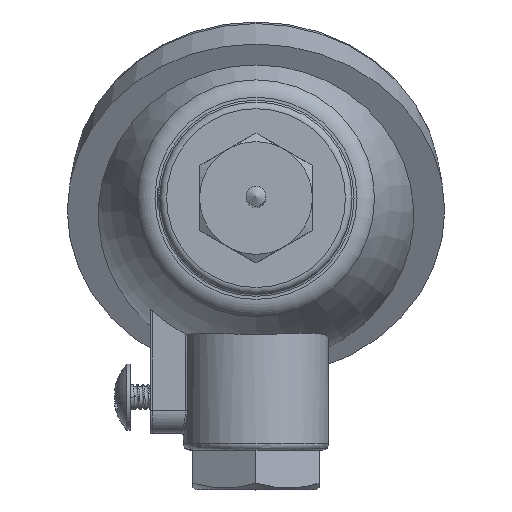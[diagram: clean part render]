
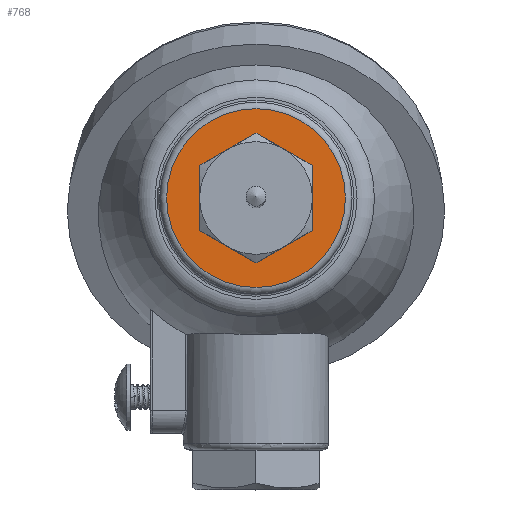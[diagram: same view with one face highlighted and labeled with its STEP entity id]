
A CAD part, top view. The second image highlights one B-rep face of the part: STEP entity #768.
In plain terms, the highlighted planar face has unit normal (0, 0, 1).
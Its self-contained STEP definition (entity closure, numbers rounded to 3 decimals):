
#77 = CARTESIAN_POINT ( 'NONE',  ( -8.487, 4.9, -5. ) ) ;
#203 = VERTEX_POINT ( 'NONE', #7496 ) ;
#362 = AXIS2_PLACEMENT_3D ( 'NONE', #1157, #7776, #3496 ) ;
#402 = EDGE_LOOP ( 'NONE', ( #505, #704, #4170, #5912, #3540, #1551 ) ) ;
#505 = ORIENTED_EDGE ( 'NONE', *, *, #7773, .F. ) ;
#704 = ORIENTED_EDGE ( 'NONE', *, *, #3423, .F. ) ;
#768 = ADVANCED_FACE ( 'NONE', ( #2866, #2906 ), #5330, .F. ) ;
#887 = VERTEX_POINT ( 'NONE', #4933 ) ;
#1151 = DIRECTION ( 'NONE',  ( 0., -1., 0. ) ) ;
#1157 = CARTESIAN_POINT ( 'NONE',  ( 0., 0., -5. ) ) ;
#1252 = EDGE_CURVE ( 'NONE', #5292, #7321, #1704, .T. ) ;
#1272 = ORIENTED_EDGE ( 'NONE', *, *, #5771, .T. ) ;
#1320 = CARTESIAN_POINT ( 'NONE',  ( 0., 0., -5. ) ) ;
#1349 = VERTEX_POINT ( 'NONE', #4451 ) ;
#1472 = DIRECTION ( 'NONE',  ( 0.866, -0.5, 0. ) ) ;
#1518 = VECTOR ( 'NONE', #1790, 1000. ) ;
#1551 = ORIENTED_EDGE ( 'NONE', *, *, #5824, .F. ) ;
#1617 = CIRCLE ( 'NONE', #3758, 13.5 ) ;
#1620 = CARTESIAN_POINT ( 'NONE',  ( -8.487, -4.9, -5. ) ) ;
#1704 = LINE ( 'NONE', #6554, #5746 ) ;
#1752 = LINE ( 'NONE', #3129, #1518 ) ;
#1790 = DIRECTION ( 'NONE',  ( -0.866, 0.5, 0. ) ) ;
#1831 = VECTOR ( 'NONE', #5542, 1000. ) ;
#2431 = LINE ( 'NONE', #3737, #7075 ) ;
#2528 = EDGE_CURVE ( 'NONE', #3389, #5292, #1752, .T. ) ;
#2866 = FACE_BOUND ( 'NONE', #402, .T. ) ;
#2906 = FACE_OUTER_BOUND ( 'NONE', #6973, .T. ) ;
#2949 = EDGE_CURVE ( 'NONE', #7321, #3824, #4218, .T. ) ;
#3129 = CARTESIAN_POINT ( 'NONE',  ( 8.487, 4.9, -5. ) ) ;
#3389 = VERTEX_POINT ( 'NONE', #5233 ) ;
#3423 = EDGE_CURVE ( 'NONE', #3824, #887, #3888, .T. ) ;
#3496 = DIRECTION ( 'NONE',  ( 0., 1., 0. ) ) ;
#3515 = DIRECTION ( 'NONE',  ( -0.866, -0.5, 0. ) ) ;
#3540 = ORIENTED_EDGE ( 'NONE', *, *, #2528, .F. ) ;
#3673 = CARTESIAN_POINT ( 'NONE',  ( -8.487, 4.9, -5. ) ) ;
#3737 = CARTESIAN_POINT ( 'NONE',  ( 8.487, -4.9, -5. ) ) ;
#3758 = AXIS2_PLACEMENT_3D ( 'NONE', #1320, #4938, #4339 ) ;
#3824 = VERTEX_POINT ( 'NONE', #1620 ) ;
#3888 = LINE ( 'NONE', #6361, #5862 ) ;
#4170 = ORIENTED_EDGE ( 'NONE', *, *, #2949, .F. ) ;
#4218 = LINE ( 'NONE', #77, #5737 ) ;
#4339 = DIRECTION ( 'NONE',  ( 0., 1., 0. ) ) ;
#4451 = CARTESIAN_POINT ( 'NONE',  ( 0., 13.5, -5. ) ) ;
#4933 = CARTESIAN_POINT ( 'NONE',  ( 0., -9.8, -5. ) ) ;
#4938 = DIRECTION ( 'NONE',  ( 0., 0., 1. ) ) ;
#5085 = LINE ( 'NONE', #7428, #1831 ) ;
#5233 = CARTESIAN_POINT ( 'NONE',  ( 8.487, 4.9, -5. ) ) ;
#5292 = VERTEX_POINT ( 'NONE', #5949 ) ;
#5330 = PLANE ( 'NONE',  #362 ) ;
#5542 = DIRECTION ( 'NONE',  ( 0.866, 0.5, 0. ) ) ;
#5737 = VECTOR ( 'NONE', #1151, 1000. ) ;
#5746 = VECTOR ( 'NONE', #3515, 1000. ) ;
#5771 = EDGE_CURVE ( 'NONE', #1349, #1349, #1617, .T. ) ;
#5824 = EDGE_CURVE ( 'NONE', #203, #3389, #2431, .T. ) ;
#5862 = VECTOR ( 'NONE', #1472, 1000. ) ;
#5912 = ORIENTED_EDGE ( 'NONE', *, *, #1252, .F. ) ;
#5949 = CARTESIAN_POINT ( 'NONE',  ( 0., 9.8, -5. ) ) ;
#6361 = CARTESIAN_POINT ( 'NONE',  ( -8.487, -4.9, -5. ) ) ;
#6554 = CARTESIAN_POINT ( 'NONE',  ( 0., 9.8, -5. ) ) ;
#6973 = EDGE_LOOP ( 'NONE', ( #1272 ) ) ;
#7075 = VECTOR ( 'NONE', #7378, 1000. ) ;
#7321 = VERTEX_POINT ( 'NONE', #3673 ) ;
#7378 = DIRECTION ( 'NONE',  ( 0., 1., 0. ) ) ;
#7428 = CARTESIAN_POINT ( 'NONE',  ( 0., -9.8, -5. ) ) ;
#7496 = CARTESIAN_POINT ( 'NONE',  ( 8.487, -4.9, -5. ) ) ;
#7773 = EDGE_CURVE ( 'NONE', #887, #203, #5085, .T. ) ;
#7776 = DIRECTION ( 'NONE',  ( 0., 0., -1. ) ) ;
